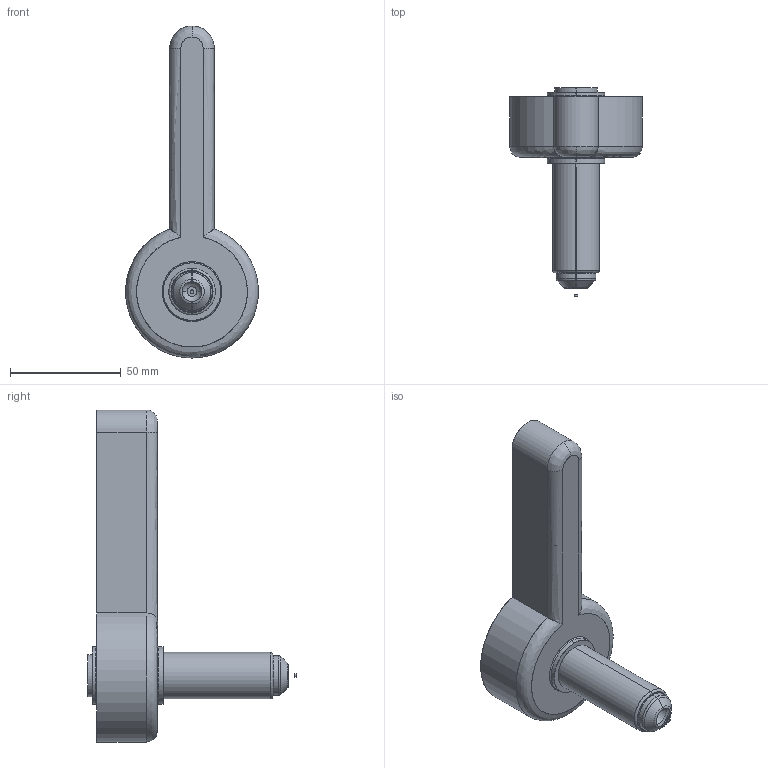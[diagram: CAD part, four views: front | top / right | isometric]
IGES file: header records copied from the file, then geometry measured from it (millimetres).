
Start section: SolidWorks IGES file using analytic representation for surfaces
Global section: file name: C:\Documents and Settings\ws-20\Desktop\TEM\Sede UGER2502-S-A C-60 L-92 Ød-1.5.IGS; native system: SolidWorks 2012; preprocessor: SolidWorks 2012; author: ws-20; date: 120405.111644; units: millimetre
Bounding box: 60 x 94.15 x 150 mm (x, y, z)
Surface area: 23508.5 mm2 (no closed solid volume)
Topology: 0 solids, 0 shells, 47 faces, 718 edges, 718 vertices
Faces by surface type: revolution 27, bspline 20
